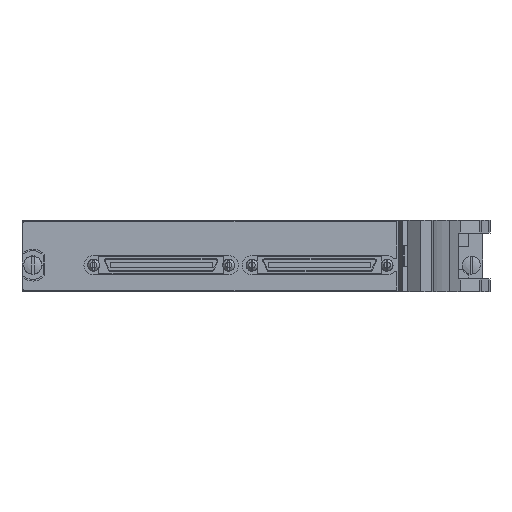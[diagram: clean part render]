
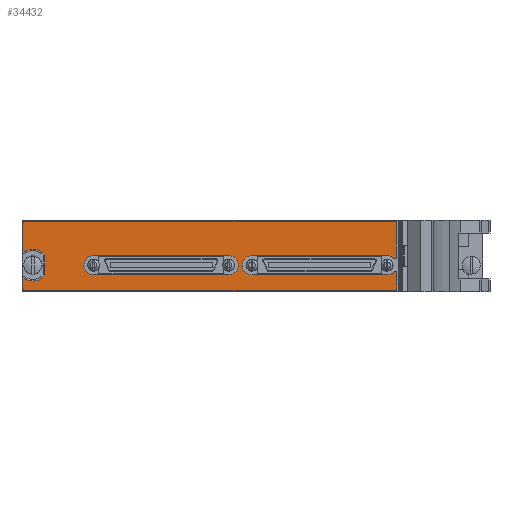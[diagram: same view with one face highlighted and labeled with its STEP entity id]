
A CAD part, left-side view. The second image highlights one B-rep face of the part: STEP entity #34432.
In plain terms, the highlighted planar face has unit normal (-1, 0, 0).
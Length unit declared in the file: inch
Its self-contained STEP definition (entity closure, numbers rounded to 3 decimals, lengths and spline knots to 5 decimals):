
#4404=CARTESIAN_POINT('',(-0.215,-3.543,0.11025));
#4405=DIRECTION('',(-1.,0.,0.));
#4406=DIRECTION('',(0.,-1.,0.));
#4407=AXIS2_PLACEMENT_3D('',#4404,#4405,#4406);
#4409=DIRECTION('',(0.,0.,1.));
#4410=VECTOR('',#4409,0.17325);
#4411=CARTESIAN_POINT('',(-0.215,-3.563,-0.063));
#4412=LINE('',#4411,#4410);
#4413=CARTESIAN_POINT('',(-0.215,-3.543,-0.063));
#4414=DIRECTION('',(-1.,0.,0.));
#4415=DIRECTION('',(0.,0.,-1.));
#4416=AXIS2_PLACEMENT_3D('',#4413,#4414,#4415);
#4418=DIRECTION('',(0.,-1.,0.));
#4419=VECTOR('',#4418,4.07);
#4420=CARTESIAN_POINT('',(-0.215,0.527,-0.083));
#4421=LINE('',#4420,#4419);
#4422=CARTESIAN_POINT('',(-0.215,0.527,-0.063));
#4423=DIRECTION('',(-1.,0.,0.));
#4424=DIRECTION('',(0.,1.,0.));
#4425=AXIS2_PLACEMENT_3D('',#4422,#4423,#4424);
#4427=DIRECTION('',(0.,0.,-1.));
#4428=VECTOR('',#4427,0.1263);
#4429=CARTESIAN_POINT('',(-0.215,0.547,0.0633));
#4430=LINE('',#4429,#4428);
#4431=CARTESIAN_POINT('',(-0.215,0.439,0.201));
#4432=DIRECTION('',(1.,0.,0.));
#4433=DIRECTION('',(0.,-0.76,-0.65));
#4434=AXIS2_PLACEMENT_3D('',#4431,#4432,#4433);
#4436=DIRECTION('',(0.,0.,-1.));
#4437=VECTOR('',#4436,0.22747);
#4438=CARTESIAN_POINT('',(-0.215,0.306,0.31474));
#4439=LINE('',#4438,#4437);
#4440=CARTESIAN_POINT('',(-0.215,0.439,0.201));
#4441=DIRECTION('',(1.,0.,0.));
#4442=DIRECTION('',(0.,0.617,0.787));
#4443=AXIS2_PLACEMENT_3D('',#4440,#4441,#4442);
#4445=DIRECTION('',(0.,0.,-1.));
#4446=VECTOR('',#4445,0.3263);
#4447=CARTESIAN_POINT('',(-0.215,0.547,0.665));
#4448=LINE('',#4447,#4446);
#4449=CARTESIAN_POINT('',(-0.215,0.527,0.665));
#4450=DIRECTION('',(-1.,0.,0.));
#4451=DIRECTION('',(0.,0.,1.));
#4452=AXIS2_PLACEMENT_3D('',#4449,#4450,#4451);
#4454=DIRECTION('',(0.,1.,0.));
#4455=VECTOR('',#4454,4.07);
#4456=CARTESIAN_POINT('',(-0.215,-3.543,0.685));
#4457=LINE('',#4456,#4455);
#4458=CARTESIAN_POINT('',(-0.215,-3.543,0.665));
#4459=DIRECTION('',(-1.,0.,0.));
#4460=DIRECTION('',(0.,-1.,0.));
#4461=AXIS2_PLACEMENT_3D('',#4458,#4459,#4460);
#4463=DIRECTION('',(0.,0.,1.));
#4464=VECTOR('',#4463,0.37566);
#4465=CARTESIAN_POINT('',(-0.215,-3.563,0.28934));
#4466=LINE('',#4465,#4464);
#4467=CARTESIAN_POINT('',(-0.215,-3.543,0.28934));
#4468=DIRECTION('',(-1.,0.,0.));
#4469=DIRECTION('',(0.,0.704,-0.711));
#4470=AXIS2_PLACEMENT_3D('',#4467,#4468,#4469);
#4472=CARTESIAN_POINT('',(-0.215,-3.45436,0.1998));
#4473=DIRECTION('',(-1.,0.,0.));
#4474=DIRECTION('',(0.,-0.704,0.711));
#4475=AXIS2_PLACEMENT_3D('',#4472,#4473,#4474);
#4477=DIRECTION('',(0.,1.,0.));
#4478=VECTOR('',#4477,1.48403);
#4479=CARTESIAN_POINT('',(-0.215,-3.45436,0.3058));
#4480=LINE('',#4479,#4478);
#4481=CARTESIAN_POINT('',(-0.215,-1.97032,0.1998));
#4482=DIRECTION('',(-1.,0.,0.));
#4483=DIRECTION('',(0.,0.,1.));
#4484=AXIS2_PLACEMENT_3D('',#4481,#4482,#4483);
#4486=DIRECTION('',(0.,-1.,0.));
#4487=VECTOR('',#4486,1.48403);
#4488=CARTESIAN_POINT('',(-0.215,-1.97032,0.0938));
#4489=LINE('',#4488,#4487);
#4490=CARTESIAN_POINT('',(-0.215,-3.45436,0.1998));
#4491=DIRECTION('',(-1.,0.,0.));
#4492=DIRECTION('',(0.,0.,-1.));
#4493=AXIS2_PLACEMENT_3D('',#4490,#4491,#4492);
#4495=CARTESIAN_POINT('',(-0.215,-0.22922,0.1998));
#4496=DIRECTION('',(-1.,0.,0.));
#4497=DIRECTION('',(0.,0.,1.));
#4498=AXIS2_PLACEMENT_3D('',#4495,#4496,#4497);
#4500=DIRECTION('',(0.,-1.,0.));
#4501=VECTOR('',#4500,1.484);
#4502=CARTESIAN_POINT('',(-0.215,-0.22922,0.0938));
#4503=LINE('',#4502,#4501);
#4504=CARTESIAN_POINT('',(-0.215,-1.71322,0.1998));
#4505=DIRECTION('',(-1.,0.,0.));
#4506=DIRECTION('',(0.,0.,-1.));
#4507=AXIS2_PLACEMENT_3D('',#4504,#4505,#4506);
#4509=DIRECTION('',(0.,1.,0.));
#4510=VECTOR('',#4509,1.484);
#4511=CARTESIAN_POINT('',(-0.215,-1.71322,0.3058));
#4512=LINE('',#4511,#4510);
#25909=CARTESIAN_POINT('',(-0.215,0.527,0.685));
#25910=CARTESIAN_POINT('',(-0.215,0.547,0.665));
#25911=VERTEX_POINT('',#25909);
#25912=VERTEX_POINT('',#25910);
#25913=CARTESIAN_POINT('',(-0.215,0.547,0.3387));
#25914=VERTEX_POINT('',#25913);
#25915=CARTESIAN_POINT('',(-0.215,0.306,0.31474));
#25916=VERTEX_POINT('',#25915);
#25917=CARTESIAN_POINT('',(-0.215,0.306,0.08726));
#25918=VERTEX_POINT('',#25917);
#25919=CARTESIAN_POINT('',(-0.215,0.547,0.0633));
#25920=VERTEX_POINT('',#25919);
#25921=CARTESIAN_POINT('',(-0.215,0.547,-0.063));
#25922=VERTEX_POINT('',#25921);
#25923=CARTESIAN_POINT('',(-0.215,0.527,-0.083));
#25924=VERTEX_POINT('',#25923);
#25925=CARTESIAN_POINT('',(-0.215,-3.543,-0.083));
#25926=VERTEX_POINT('',#25925);
#25927=CARTESIAN_POINT('',(-0.215,-3.563,-0.063));
#25928=VERTEX_POINT('',#25927);
#25929=CARTESIAN_POINT('',(-0.215,-3.563,0.665));
#25930=CARTESIAN_POINT('',(-0.215,-3.543,0.685));
#25931=VERTEX_POINT('',#25929);
#25932=VERTEX_POINT('',#25930);
#25933=CARTESIAN_POINT('',(-0.215,-0.22922,0.3058));
#25934=CARTESIAN_POINT('',(-0.215,-0.22922,0.0938));
#25935=VERTEX_POINT('',#25933);
#25936=VERTEX_POINT('',#25934);
#25937=CARTESIAN_POINT('',(-0.215,-1.71322,0.0938));
#25938=VERTEX_POINT('',#25937);
#25939=CARTESIAN_POINT('',(-0.215,-1.71322,0.3058));
#25940=VERTEX_POINT('',#25939);
#25941=CARTESIAN_POINT('',(-0.215,-1.97032,0.3058));
#25942=CARTESIAN_POINT('',(-0.215,-1.97032,0.0938));
#25943=VERTEX_POINT('',#25941);
#25944=VERTEX_POINT('',#25942);
#25945=CARTESIAN_POINT('',(-0.215,-3.45436,0.0938));
#25946=VERTEX_POINT('',#25945);
#25947=CARTESIAN_POINT('',(-0.215,-3.45436,0.3058));
#25948=VERTEX_POINT('',#25947);
#25949=CARTESIAN_POINT('',(-0.215,-3.563,0.11025));
#25950=CARTESIAN_POINT('',(-0.215,-3.52893,0.12446));
#25951=VERTEX_POINT('',#25949);
#25952=VERTEX_POINT('',#25950);
#25953=CARTESIAN_POINT('',(-0.215,-3.52893,0.27513));
#25954=CARTESIAN_POINT('',(-0.215,-3.563,0.28934));
#25955=VERTEX_POINT('',#25953);
#25956=VERTEX_POINT('',#25954);
#34395=CARTESIAN_POINT('',(-0.215,0.439,0.201));
#34396=DIRECTION('',(-1.,0.,0.));
#34397=DIRECTION('',(0.,0.,1.));
#34398=AXIS2_PLACEMENT_3D('',#34395,#34396,#34397);
#34399=PLANE('',#34398);
#34400=ORIENTED_EDGE('',*,*,#34264,.F.);
#34401=ORIENTED_EDGE('',*,*,#34278,.F.);
#34402=ORIENTED_EDGE('',*,*,#34292,.F.);
#34403=ORIENTED_EDGE('',*,*,#34306,.F.);
#34404=ORIENTED_EDGE('',*,*,#34320,.F.);
#34405=ORIENTED_EDGE('',*,*,#34334,.F.);
#34406=ORIENTED_EDGE('',*,*,#34348,.F.);
#34407=ORIENTED_EDGE('',*,*,#34362,.F.);
#34408=ORIENTED_EDGE('',*,*,#34376,.F.);
#34409=ORIENTED_EDGE('',*,*,#34389,.F.);
#34410=ORIENTED_EDGE('',*,*,#34123,.F.);
#34411=ORIENTED_EDGE('',*,*,#34138,.F.);
#34412=ORIENTED_EDGE('',*,*,#34152,.F.);
#34413=ORIENTED_EDGE('',*,*,#34166,.F.);
#34414=ORIENTED_EDGE('',*,*,#34180,.F.);
#34415=ORIENTED_EDGE('',*,*,#34194,.T.);
#34416=ORIENTED_EDGE('',*,*,#34208,.T.);
#34417=ORIENTED_EDGE('',*,*,#34222,.T.);
#34418=ORIENTED_EDGE('',*,*,#34236,.T.);
#34419=ORIENTED_EDGE('',*,*,#34250,.T.);
#34420=EDGE_LOOP('',(#34400,#34401,#34402,#34403,#34404,#34405,#34406,#34407,
#34408,#34409,#34410,#34411,#34412,#34413,#34414,#34415,#34416,#34417,#34418,
#34419));
#34421=FACE_OUTER_BOUND('',#34420,.F.);
#34423=ORIENTED_EDGE('',*,*,#34422,.T.);
#34425=ORIENTED_EDGE('',*,*,#34424,.T.);
#34427=ORIENTED_EDGE('',*,*,#34426,.T.);
#34429=ORIENTED_EDGE('',*,*,#34428,.T.);
#34430=EDGE_LOOP('',(#34423,#34425,#34427,#34429));
#34431=FACE_BOUND('',#34430,.F.);
#34432=ADVANCED_FACE('',(#34421,#34431),#34399,.T.);
#4408=CIRCLE('',#4407,0.02);
#4417=CIRCLE('',#4416,0.02);
#4426=CIRCLE('',#4425,0.02);
#4435=CIRCLE('',#4434,0.175);
#4444=CIRCLE('',#4443,0.175);
#4453=CIRCLE('',#4452,0.02);
#4462=CIRCLE('',#4461,0.02);
#4471=CIRCLE('',#4470,0.02);
#4476=CIRCLE('',#4475,0.106);
#4485=CIRCLE('',#4484,0.106);
#4494=CIRCLE('',#4493,0.106);
#4499=CIRCLE('',#4498,0.106);
#4508=CIRCLE('',#4507,0.106);
#34123=EDGE_CURVE('',#25911,#25912,#4453,.T.);
#34138=EDGE_CURVE('',#25932,#25911,#4457,.T.);
#34152=EDGE_CURVE('',#25931,#25932,#4462,.T.);
#34166=EDGE_CURVE('',#25956,#25931,#4466,.T.);
#34180=EDGE_CURVE('',#25955,#25956,#4471,.T.);
#34194=EDGE_CURVE('',#25955,#25948,#4476,.T.);
#34208=EDGE_CURVE('',#25948,#25943,#4480,.T.);
#34222=EDGE_CURVE('',#25943,#25944,#4485,.T.);
#34236=EDGE_CURVE('',#25944,#25946,#4489,.T.);
#34250=EDGE_CURVE('',#25946,#25952,#4494,.T.);
#34264=EDGE_CURVE('',#25951,#25952,#4408,.T.);
#34278=EDGE_CURVE('',#25928,#25951,#4412,.T.);
#34292=EDGE_CURVE('',#25926,#25928,#4417,.T.);
#34306=EDGE_CURVE('',#25924,#25926,#4421,.T.);
#34320=EDGE_CURVE('',#25922,#25924,#4426,.T.);
#34334=EDGE_CURVE('',#25920,#25922,#4430,.T.);
#34348=EDGE_CURVE('',#25918,#25920,#4435,.T.);
#34362=EDGE_CURVE('',#25916,#25918,#4439,.T.);
#34376=EDGE_CURVE('',#25914,#25916,#4444,.T.);
#34389=EDGE_CURVE('',#25912,#25914,#4448,.T.);
#34422=EDGE_CURVE('',#25935,#25936,#4499,.T.);
#34424=EDGE_CURVE('',#25936,#25938,#4503,.T.);
#34426=EDGE_CURVE('',#25938,#25940,#4508,.T.);
#34428=EDGE_CURVE('',#25940,#25935,#4512,.T.);
